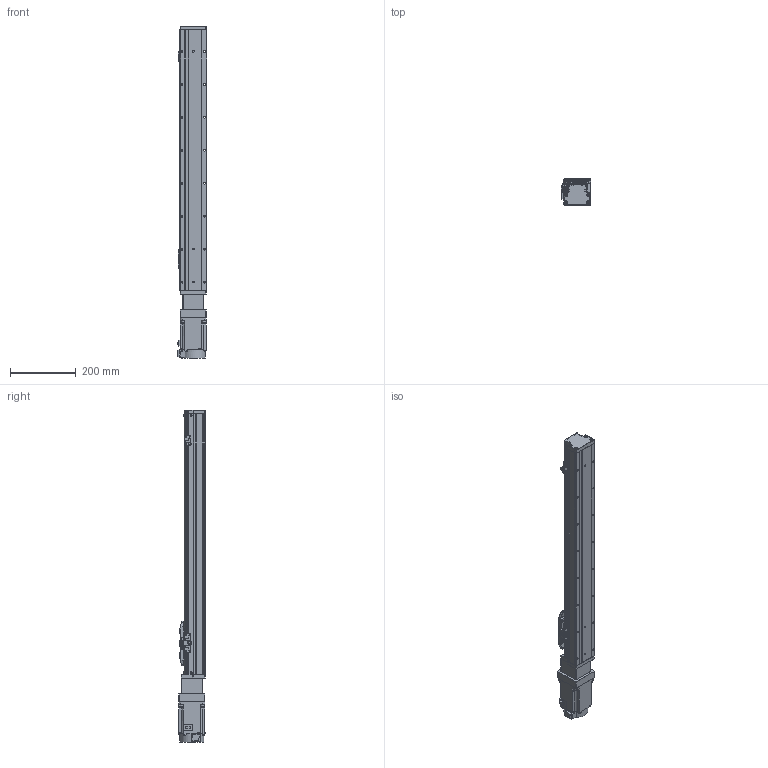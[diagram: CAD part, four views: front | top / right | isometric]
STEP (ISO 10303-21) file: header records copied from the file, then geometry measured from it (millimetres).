
FILE_DESCRIPTION (( 'STEP AP203' ), '1' );
FILE_NAME ('GTH8-600-BC-M75-C4.step', '2023-02-14T02:20:12', ( '微软用户' ), ( '微软中国' ), 'SwSTEP 2.0', 'SolidWorks 2020', '' );
FILE_SCHEMA (( 'CONFIG_CONTROL_DESIGN' ));
Length unit declared in the file: millimetre
Products named in the file (19): GBT96.1-2002 3×0.8; GTH80-004; BTH-M3X5X6; GTH80-006; CTHA86-006-1_CTHA86-006-4; GTH80-013; GBT 70.1-M4×16; CTHA86-013; GBT 70.3-M3℅6; GTH80-028; CTHA86-027; GTH80-022; GTH50-024; hg-kn73j_-s100; GTH80-001_600; GBT 70.1-M3℅6; GTH50-023; GTH8-600-BC-M75-C4; GTH80-003
Assembly tree (60 placements, depth 2):
  GTH8-600-BC-M75-C4
    GTH80-001_600
    GTH80-003
    GTH80-004
    GTH80-006
    GTH80-013
    GBT 70.3-M3℅6  x6
    GTH80-022
    GBT 70.1-M3℅6  x14
    GBT 70.1-M4×16  x8
    GTH80-028  x2
    GTH50-024  x3
    GTH50-023  x3
    GBT96.1-2002 3×0.8  x6
    BTH-M3X5X6  x8
    CTHA86-006-1_CTHA86-006-4
    CTHA86-013
    CTHA86-027
    hg-kn73j_-s100
Bounding box: 89.8 x 81.72 x 1007.2 mm (x, y, z)
Volume: 4647382.2 mm3; surface area: 476604.4 mm2
Topology: 62 solids, 62 shells, 2257 faces, 5198 edges, 3168 vertices
Faces by surface type: plane 1185, cylinder 615, cone 285, torus 162, sphere 8, bspline 2
Entity records: 39637 total; most frequent: DIRECTION 6531, CARTESIAN_POINT 6530, ORIENTED_EDGE 5986, EDGE_CURVE 2993, AXIS2_PLACEMENT_3D 2287, VECTOR 1957, LINE 1957, VERTEX_POINT 1881
